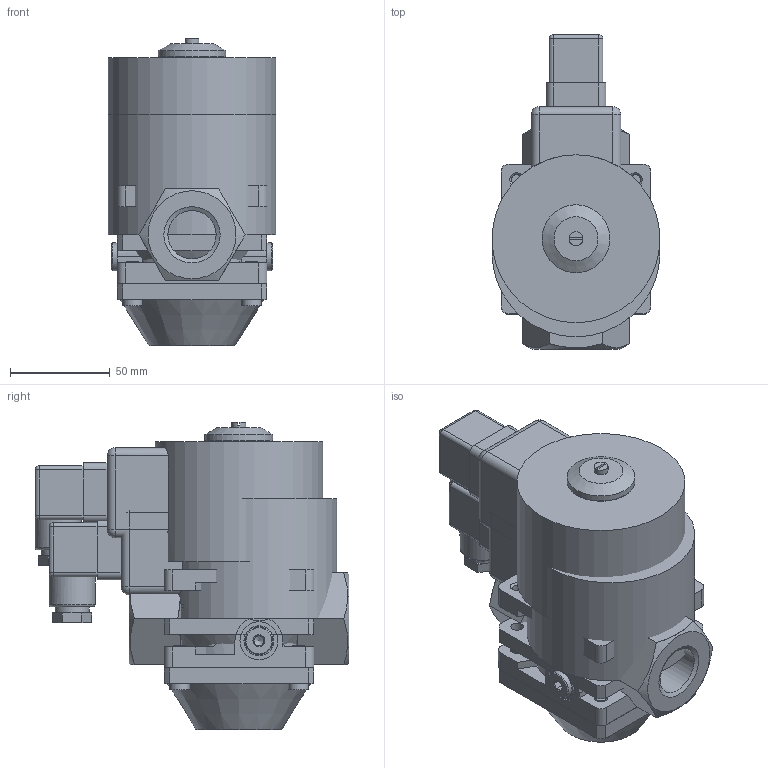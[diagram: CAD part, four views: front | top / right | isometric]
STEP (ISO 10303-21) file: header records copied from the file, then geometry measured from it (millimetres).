
FILE_DESCRIPTION( ( 'Unknown' ), '1' );
FILE_NAME( 'D:/Wyroby/Widoki gabarytowe/Zawory ZEG/ZEG_20/ZEG_20.stp', 'Unknown', ( 'Unknown' ), ( 'Unknown' ), 'XStep 1.0', 'Unknown', ' ' );
FILE_SCHEMA( ( 'CONFIG_CONTROL_DESIGN' ) );
Length unit declared in the file: millimetre
Products named in the file (34): Wa_136_01_02; Assem1; Wa_007_01_02; Wa_137_01_00; Wa_136_01_02_003; Wa_136_01_02_001; Wa_136_01_02_005; Oring7,6x2,62rozci鉚ni皻y8; Wa_136_01_02_004; Wa_136_01_02_006; Wa_136_01_02_002zaci從i黎a; Wa_007_01_02_003k1; Wa_007_01_02_002k1; Wa_007_01_02_001k1; Wa_137_01_01; Wa_136_01_00_001; Wa_007_01_00_002; Wa_136_01_00_005; Wa_136_01_00_002; Wa_136_01_00_003彡i從i黎a21,5; Wa_007_01_00_007; W-008 wkrêt m4x12; Wa_136_01_00_007彡i從i黎a16; Wa_007_01_00_005彡i從.; Œ-008ImbusM6x16; Wa_031_01_00_011; Wa_031_01_00_009; Cewka_25B
Bounding box: 84 x 157 x 153.8 mm (x, y, z)
Volume: 1569932.1 mm3; surface area: 457919.9 mm2
Topology: 99 solids, 99 shells, 1802 faces, 3910 edges, 2482 vertices
Faces by surface type: plane 871, cylinder 540, cone 283, torus 59, sphere 25, bspline 15, extrusion 9
Full cylindrical faces by diameter (mm): 1.5 x3, 2 x4, 2.5 x3, 3 x3, 3.242 x4, 4 x6, 4.134 x4, 4.2 x3, 4.917 x12, 5 x8, 6 x16, 6.2 x15, 6.5 x4, 7 x3, 8 x7, 8.566 x6, 8.917 x4, 10 x20, 10.1 x4, 10.5 x12, 11 x12, 11.5 x3, 12 x10, 12.8 x3, 13 x4, 14 x10, 15 x6, 16 x7, 17 x2, 18 x15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
Entity records: 19652 total; most frequent: CARTESIAN_POINT 6657, DIRECTION 2508, ORIENTED_EDGE 1904, AXIS2_PLACEMENT_3D 1069, EDGE_CURVE 952, EDGE_LOOP 899, VERTEX_POINT 728, FACE_OUTER_BOUND 701
